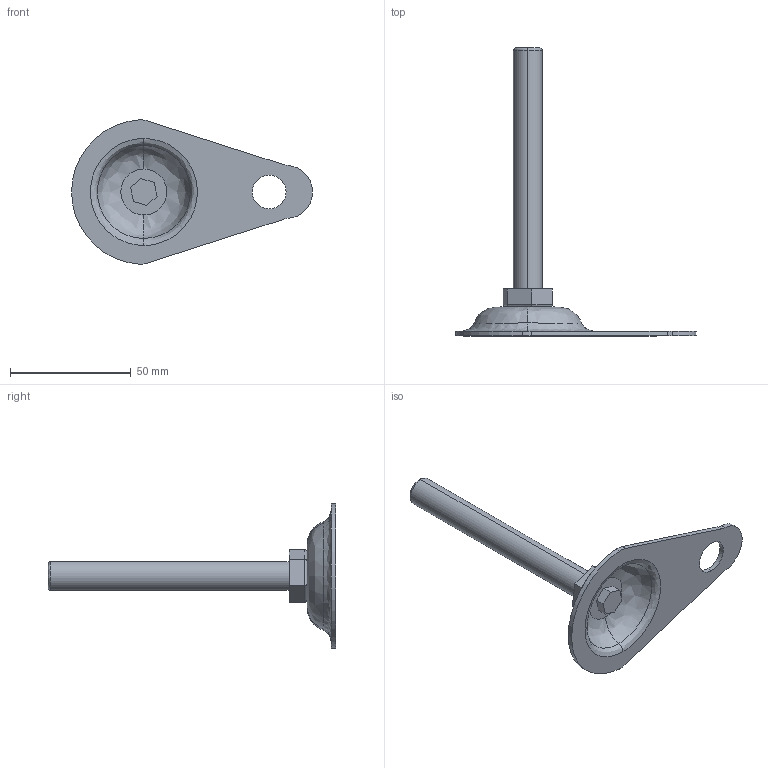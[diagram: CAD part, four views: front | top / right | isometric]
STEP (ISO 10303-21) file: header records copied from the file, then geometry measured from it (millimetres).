
FILE_DESCRIPTION (( 'STEP AP203' ), '1' );
FILE_NAME ('DY-K10012100.STEP', '2022-03-09T03:17:15', ( '' ), ( '' ), 'SwSTEP 2.0', 'SolidWorks 2017', '' );
FILE_SCHEMA (( 'CONFIG_CONTROL_DESIGN' ));
Length unit declared in the file: millimetre
Products named in the file (1): DY-K10012100
Bounding box: 99.96 x 119.5 x 59.88 mm (x, y, z)
Surface area: 14220.1 mm2 (no closed solid volume)
Topology: 0 solids, 3 shells, 48 faces, 115 edges, 74 vertices
Faces by surface type: plane 21, cylinder 17, bspline 10
Entity records: 1954 total; most frequent: CARTESIAN_POINT 814, DIRECTION 217, ORIENTED_EDGE 214, EDGE_CURVE 115, AXIS2_PLACEMENT_3D 79, VERTEX_POINT 74, LINE 59, VECTOR 59
